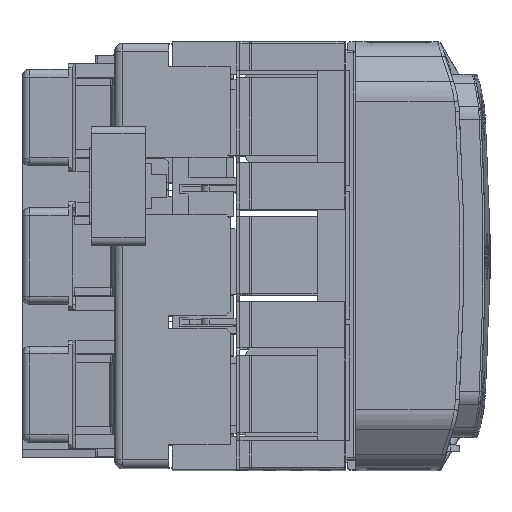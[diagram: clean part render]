
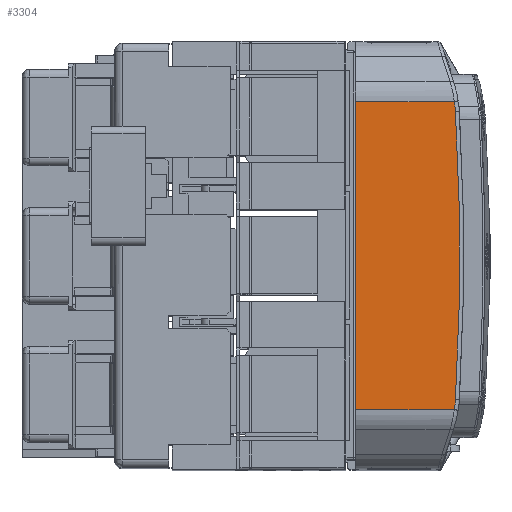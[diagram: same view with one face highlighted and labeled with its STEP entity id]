
A CAD part, top view. The second image highlights one B-rep face of the part: STEP entity #3304.
In plain terms, the highlighted planar face has unit normal (0, 0, 1).
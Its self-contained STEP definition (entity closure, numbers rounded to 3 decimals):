
#869=TRIMMED_CURVE($,#2058,(#49144),(#49145),.T.,.CARTESIAN.);
#870=TRIMMED_CURVE($,#2059,(#49147),(#49148),.T.,.CARTESIAN.);
#871=TRIMMED_CURVE($,#2060,(#49150),(#49151),.T.,.CARTESIAN.);
#2058=CIRCLE('',#33811,29.);
#2059=CIRCLE('',#33812,622.603);
#2060=CIRCLE('',#33813,29.);
#3304=ADVANCED_FACE('',(#4593),#32643,.T.);
#4593=FACE_OUTER_BOUND('',#5889,.T.);
#5889=EDGE_LOOP('',(#8120,#8121,#8122,#8123,#8124,#8125));
#8120=ORIENTED_EDGE('',*,*,#17059,.F.);
#8121=ORIENTED_EDGE('',*,*,#17058,.T.);
#8122=ORIENTED_EDGE('',*,*,#17057,.T.);
#8123=ORIENTED_EDGE('',*,*,#17056,.T.);
#8124=ORIENTED_EDGE('',*,*,#17051,.F.);
#8125=ORIENTED_EDGE('',*,*,#17055,.F.);
#17051=EDGE_CURVE('',#28278,#28279,#23181,.T.);
#17055=EDGE_CURVE('',#28281,#28278,#23184,.T.);
#17056=EDGE_CURVE('',#28282,#28279,#869,.T.);
#17057=EDGE_CURVE('',#28283,#28282,#870,.T.);
#17058=EDGE_CURVE('',#28284,#28283,#871,.T.);
#17059=EDGE_CURVE('',#28284,#28281,#23185,.T.);
#23181=B_SPLINE_CURVE_WITH_KNOTS('',1,(#49124,#49125),.UNSPECIFIED.,.F.,
 .F.,(2,2),(0.,25.601),.UNSPECIFIED.);
#23184=B_SPLINE_CURVE_WITH_KNOTS('',1,(#49141,#49142),.UNSPECIFIED.,.F.,
 .F.,(2,2),(0.,79.894),.UNSPECIFIED.);
#23185=B_SPLINE_CURVE_WITH_KNOTS('',1,(#49152,#49153),.UNSPECIFIED.,.F.,
 .F.,(2,2),(0.,25.601),.UNSPECIFIED.);
#28278=VERTEX_POINT('',#46579);
#28279=VERTEX_POINT('',#46580);
#28281=VERTEX_POINT('',#46582);
#28282=VERTEX_POINT('',#46583);
#28283=VERTEX_POINT('',#46584);
#28284=VERTEX_POINT('',#46585);
#32643=PLANE('',#33566);
#33566=AXIS2_PLACEMENT_3D('',#41565,#35882,$);
#33811=AXIS2_PLACEMENT_3D($,#49143,#36302,#36303);
#33812=AXIS2_PLACEMENT_3D($,#49146,#36304,#36305);
#33813=AXIS2_PLACEMENT_3D($,#49149,#36306,#36307);
#35882=DIRECTION('',(0.,0.,1.));
#36302=DIRECTION('',(0.,0.,1.));
#36303=DIRECTION('',(0.998,0.06,0.));
#36304=DIRECTION('',(0.,0.,1.));
#36305=DIRECTION('',(0.998,-0.06,0.));
#36306=DIRECTION('',(0.,0.,1.));
#36307=DIRECTION('',(0.989,-0.151,0.));
#41565=CARTESIAN_POINT('',(90.118,40.241,59.781));
#46579=CARTESIAN_POINT('',(63.118,40.241,59.781));
#46580=CARTESIAN_POINT('',(88.718,40.241,59.781));
#46582=CARTESIAN_POINT('',(63.118,-39.652,59.781));
#46583=CARTESIAN_POINT('',(88.999,37.596,59.781));
#46584=CARTESIAN_POINT('',(88.999,-37.007,59.781));
#46585=CARTESIAN_POINT('',(88.718,-39.652,59.781));
#49124=CARTESIAN_POINT('',(63.118,40.241,59.781));
#49125=CARTESIAN_POINT('',(88.718,40.241,59.781));
#49141=CARTESIAN_POINT('',(63.118,-39.652,59.781));
#49142=CARTESIAN_POINT('',(63.118,40.241,59.781));
#49143=CARTESIAN_POINT('',(60.051,35.859,59.781));
#49144=CARTESIAN_POINT('',(88.999,37.596,59.781));
#49145=CARTESIAN_POINT('',(88.718,40.241,59.781));
#49146=CARTESIAN_POINT('',(-532.485,0.294,59.781));
#49147=CARTESIAN_POINT('',(88.999,-37.007,59.781));
#49148=CARTESIAN_POINT('',(88.999,37.596,59.781));
#49149=CARTESIAN_POINT('',(60.051,-35.27,59.781));
#49150=CARTESIAN_POINT('',(88.718,-39.652,59.781));
#49151=CARTESIAN_POINT('',(88.999,-37.007,59.781));
#49152=CARTESIAN_POINT('',(88.718,-39.652,59.781));
#49153=CARTESIAN_POINT('',(63.118,-39.652,59.781));
